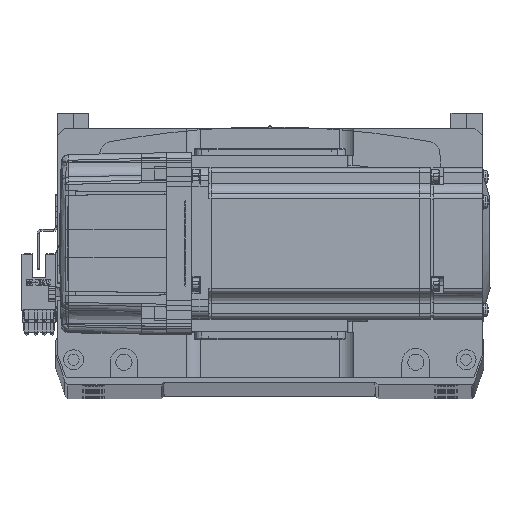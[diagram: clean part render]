
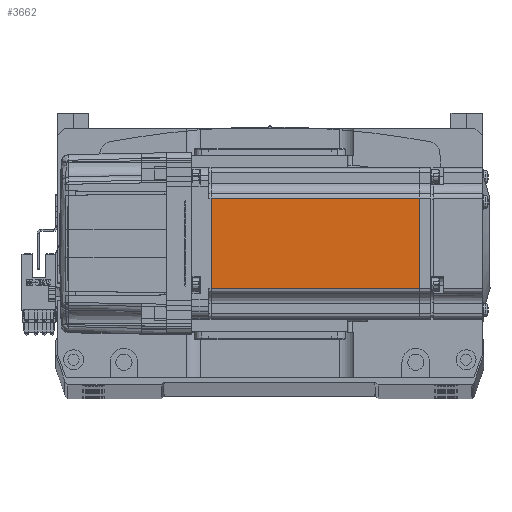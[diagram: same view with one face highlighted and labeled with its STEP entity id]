
A CAD part, top view. The second image highlights one B-rep face of the part: STEP entity #3662.
In plain terms, the highlighted planar face has unit normal (0, 0, 1) as drawn and (0, -1, 0) by its records, which use the part's own axes.
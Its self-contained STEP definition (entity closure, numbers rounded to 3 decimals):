
#520 = DIRECTION ( 'NONE',  ( 0., 0., -1. ) ) ;
#1902 = ORIENTED_EDGE ( 'NONE', *, *, #46982, .T. ) ;
#2382 = VERTEX_POINT ( 'NONE', #29668 ) ;
#3662 = ADVANCED_FACE ( 'NONE', ( #7794 ), #34283, .T. ) ;
#6007 = ORIENTED_EDGE ( 'NONE', *, *, #47469, .T. ) ;
#6605 = CARTESIAN_POINT ( 'NONE',  ( -90.45, -30., -18. ) ) ;
#6742 = CARTESIAN_POINT ( 'NONE',  ( -6.5, -30., -25. ) ) ;
#7794 = FACE_OUTER_BOUND ( 'NONE', #10731, .T. ) ;
#10731 = EDGE_LOOP ( 'NONE', ( #1902, #34660, #6007, #58966 ) ) ;
#14526 = VERTEX_POINT ( 'NONE', #6605 ) ;
#16573 = CARTESIAN_POINT ( 'NONE',  ( -7.75, -30., -25. ) ) ;
#16847 = VECTOR ( 'NONE', #520, 1000. ) ;
#22827 = LINE ( 'NONE', #52145, #59239 ) ;
#29176 = EDGE_CURVE ( 'NONE', #14526, #2382, #22827, .T. ) ;
#29668 = CARTESIAN_POINT ( 'NONE',  ( -7.75, -30., -18. ) ) ;
#30656 = LINE ( 'NONE', #43315, #40152 ) ;
#34283 = PLANE ( 'NONE',  #49381 ) ;
#34660 = ORIENTED_EDGE ( 'NONE', *, *, #53314, .T. ) ;
#35470 = VERTEX_POINT ( 'NONE', #57862 ) ;
#38696 = CARTESIAN_POINT ( 'NONE',  ( -90.45, -30., -25. ) ) ;
#39330 = LINE ( 'NONE', #38696, #16847 ) ;
#40152 = VECTOR ( 'NONE', #60042, 1000. ) ;
#40236 = DIRECTION ( 'NONE',  ( 1., 0., 0. ) ) ;
#43315 = CARTESIAN_POINT ( 'NONE',  ( -6.5, -30., 18. ) ) ;
#44972 = DIRECTION ( 'NONE',  ( 0., 0., -1. ) ) ;
#46867 = CARTESIAN_POINT ( 'NONE',  ( -7.75, -30., 18. ) ) ;
#46982 = EDGE_CURVE ( 'NONE', #2382, #66605, #69746, .T. ) ;
#47469 = EDGE_CURVE ( 'NONE', #35470, #14526, #39330, .T. ) ;
#49381 = AXIS2_PLACEMENT_3D ( 'NONE', #6742, #61630, #44972 ) ;
#52145 = CARTESIAN_POINT ( 'NONE',  ( -6.5, -30., -18. ) ) ;
#52504 = VECTOR ( 'NONE', #65700, 1000. ) ;
#53314 = EDGE_CURVE ( 'NONE', #66605, #35470, #30656, .T. ) ;
#57862 = CARTESIAN_POINT ( 'NONE',  ( -90.45, -30., 18. ) ) ;
#58966 = ORIENTED_EDGE ( 'NONE', *, *, #29176, .T. ) ;
#59239 = VECTOR ( 'NONE', #40236, 1000. ) ;
#60042 = DIRECTION ( 'NONE',  ( -1., 0., 0. ) ) ;
#61630 = DIRECTION ( 'NONE',  ( 0., -1., 0. ) ) ;
#65700 = DIRECTION ( 'NONE',  ( 0., 0., 1. ) ) ;
#66605 = VERTEX_POINT ( 'NONE', #46867 ) ;
#69746 = LINE ( 'NONE', #16573, #52504 ) ;
